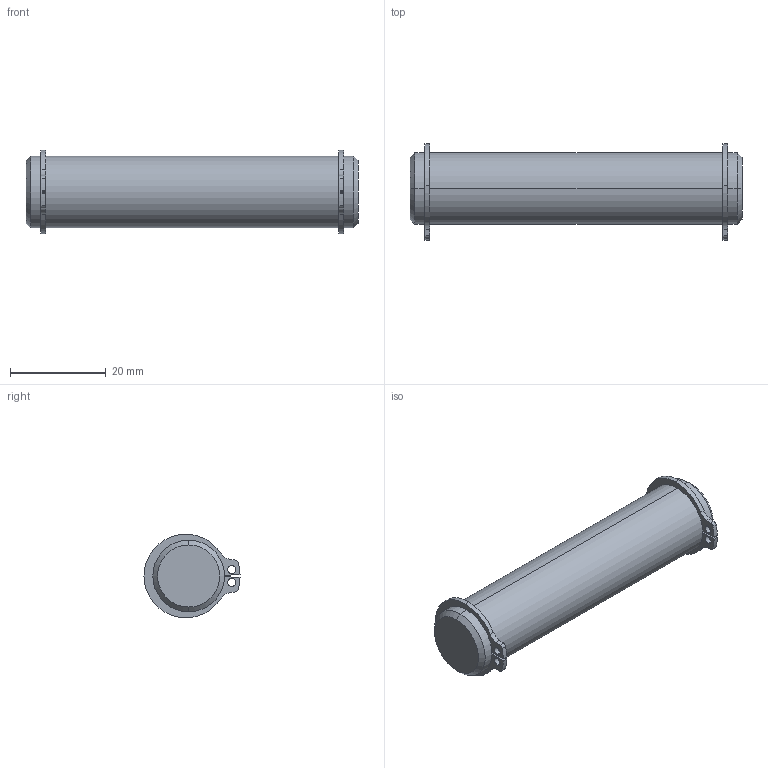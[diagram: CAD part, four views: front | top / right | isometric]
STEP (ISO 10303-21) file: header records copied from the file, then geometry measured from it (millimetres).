
FILE_DESCRIPTION (( 'STEP AP214' ), '1' );
FILE_NAME ('900.300.101-1.STEP', '2015-02-13T10:51:52', ( '' ), ( '' ), 'SwSTEP 2.0', 'SolidWorks 2012', '' );
FILE_SCHEMA (( 'AUTOMOTIVE_DESIGN' ));
Length unit declared in the file: millimetre
Products named in the file (3): 900.300.101-1; circlip for shafts normal_din_Circlip DIN 471 - 15 x 1; 900.300.004
Assembly tree (3 placements, depth 2):
  900.300.101-1
    900.300.004
    circlip for shafts normal_din_Circlip DIN 471 - 15 x 1  x2
Bounding box: 69.5 x 20.1 x 17.51 mm (x, y, z)
Volume: 12387.1 mm3; surface area: 4235.3 mm2
Topology: 3 solids, 3 shells, 72 faces, 174 edges, 112 vertices
Faces by surface type: cylinder 42, plane 18, torus 8, cone 4
Entity records: 1736 total; most frequent: DIRECTION 298, CARTESIAN_POINT 242, ORIENTED_EDGE 228, AXIS2_PLACEMENT_3D 128, EDGE_CURVE 114, VERTEX_POINT 72, CIRCLE 72, EDGE_LOOP 58
